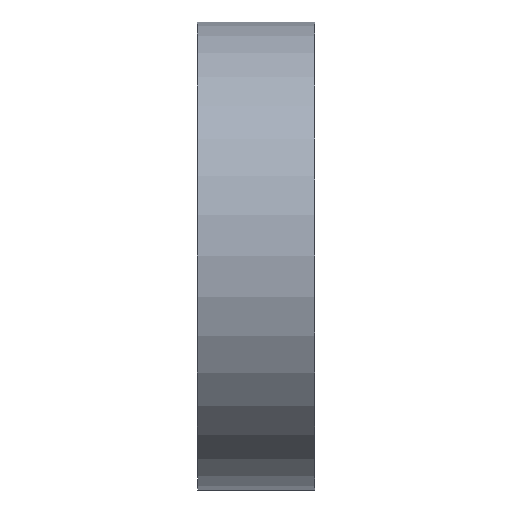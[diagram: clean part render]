
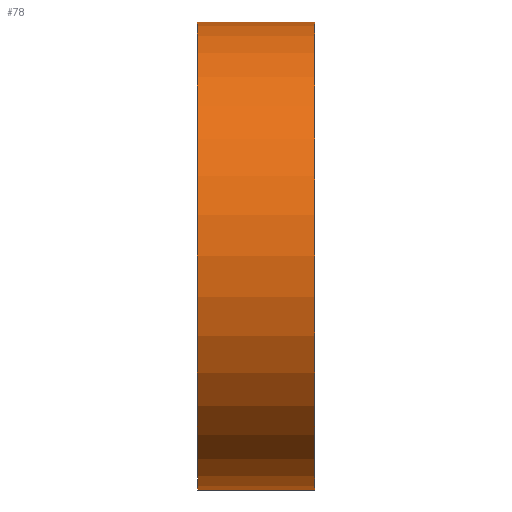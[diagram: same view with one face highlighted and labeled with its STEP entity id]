
A CAD part, left-side view. The second image highlights one B-rep face of the part: STEP entity #78.
In plain terms, the highlighted cylindrical face has radius 16 mm (diameter 32 mm), a partial arc.
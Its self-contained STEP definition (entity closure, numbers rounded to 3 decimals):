
#4 = ORIENTED_EDGE ( 'NONE', *, *, #712, .T. ) ;
#6 = VERTEX_POINT ( 'NONE', #589 ) ;
#53 = VERTEX_POINT ( 'NONE', #118 ) ;
#65 = LINE ( 'NONE', #162, #798 ) ;
#78 = ADVANCED_FACE ( 'NONE', ( #456 ), #447, .T. ) ;
#111 = EDGE_CURVE ( 'NONE', #6, #53, #740, .T. ) ;
#118 = CARTESIAN_POINT ( 'NONE',  ( 0., 4., -16. ) ) ;
#162 = CARTESIAN_POINT ( 'NONE',  ( 0., 0., 16. ) ) ;
#167 = CIRCLE ( 'NONE', #328, 16. ) ;
#227 = CIRCLE ( 'NONE', #872, 16. ) ;
#230 = DIRECTION ( 'NONE',  ( 0., 0., 1. ) ) ;
#280 = EDGE_CURVE ( 'NONE', #6, #627, #167, .T. ) ;
#290 = CARTESIAN_POINT ( 'NONE',  ( 0., -4., 0. ) ) ;
#314 = ORIENTED_EDGE ( 'NONE', *, *, #280, .T. ) ;
#319 = DIRECTION ( 'NONE',  ( 0., 1., 0. ) ) ;
#328 = AXIS2_PLACEMENT_3D ( 'NONE', #290, #682, #421 ) ;
#350 = AXIS2_PLACEMENT_3D ( 'NONE', #384, #319, #396 ) ;
#372 = ORIENTED_EDGE ( 'NONE', *, *, #111, .F. ) ;
#384 = CARTESIAN_POINT ( 'NONE',  ( 0., 0., 0. ) ) ;
#396 = DIRECTION ( 'NONE',  ( 0., 0., 1. ) ) ;
#421 = DIRECTION ( 'NONE',  ( 0., 0., 1. ) ) ;
#424 = EDGE_LOOP ( 'NONE', ( #372, #314, #4, #848 ) ) ;
#434 = CARTESIAN_POINT ( 'NONE',  ( 0., 4., 16. ) ) ;
#447 = CYLINDRICAL_SURFACE ( 'NONE', #350, 16. ) ;
#452 = DIRECTION ( 'NONE',  ( 0., 1., 0. ) ) ;
#456 = FACE_OUTER_BOUND ( 'NONE', #424, .T. ) ;
#495 = CARTESIAN_POINT ( 'NONE',  ( 0., 4., 0. ) ) ;
#511 = CARTESIAN_POINT ( 'NONE',  ( 0., -4., 16. ) ) ;
#518 = EDGE_CURVE ( 'NONE', #53, #702, #227, .T. ) ;
#589 = CARTESIAN_POINT ( 'NONE',  ( 0., -4., -16. ) ) ;
#627 = VERTEX_POINT ( 'NONE', #511 ) ;
#642 = DIRECTION ( 'NONE',  ( 0., 1., 0. ) ) ;
#682 = DIRECTION ( 'NONE',  ( 0., 1., 0. ) ) ;
#702 = VERTEX_POINT ( 'NONE', #434 ) ;
#712 = EDGE_CURVE ( 'NONE', #627, #702, #65, .T. ) ;
#740 = LINE ( 'NONE', #801, #782 ) ;
#782 = VECTOR ( 'NONE', #452, 1000. ) ;
#798 = VECTOR ( 'NONE', #642, 1000. ) ;
#801 = CARTESIAN_POINT ( 'NONE',  ( 0., 0., -16. ) ) ;
#837 = DIRECTION ( 'NONE',  ( 0., 1., 0. ) ) ;
#848 = ORIENTED_EDGE ( 'NONE', *, *, #518, .F. ) ;
#872 = AXIS2_PLACEMENT_3D ( 'NONE', #495, #837, #230 ) ;
